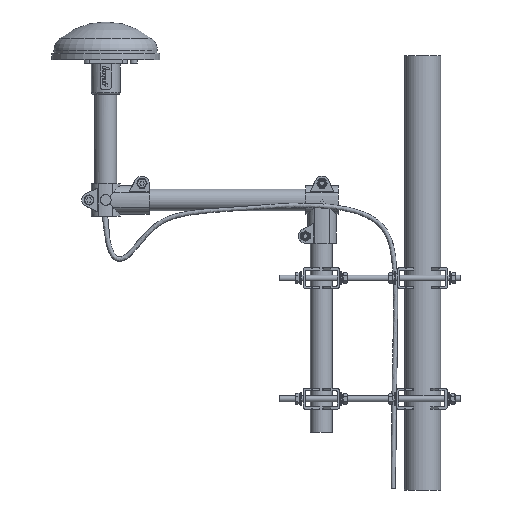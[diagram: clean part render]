
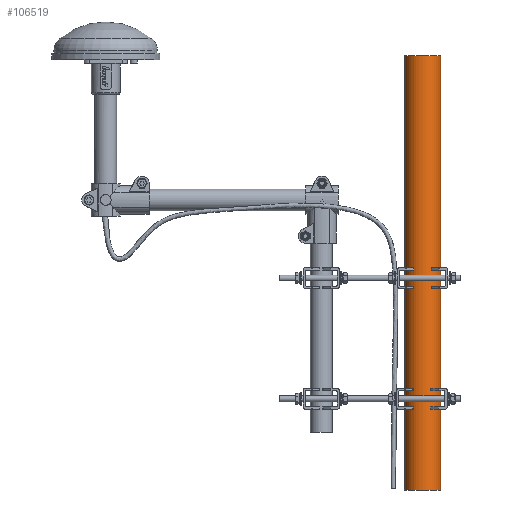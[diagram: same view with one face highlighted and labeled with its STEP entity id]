
A CAD part, front view. The second image highlights one B-rep face of the part: STEP entity #106519.
In plain terms, the highlighted cylindrical face has radius 25 mm (diameter 50 mm), a full revolution.
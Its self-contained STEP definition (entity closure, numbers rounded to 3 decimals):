
#106465 = PLANE('',#106466);
#106466 = AXIS2_PLACEMENT_3D('',#106467,#106468,#106469);
#106467 = CARTESIAN_POINT('',(0.,0.,600.));
#106468 = DIRECTION('',(-0.,0.,-1.));
#106469 = DIRECTION('',(1.,0.,-0.));
#106491 = EDGE_CURVE('',#106492,#106492,#106494,.T.);
#106492 = VERTEX_POINT('',#106493);
#106493 = CARTESIAN_POINT('',(25.,0.,600.));
#106494 = SURFACE_CURVE('',#106495,(#106500,#106507),.PCURVE_S1.);
#106495 = CIRCLE('',#106496,25.);
#106496 = AXIS2_PLACEMENT_3D('',#106497,#106498,#106499);
#106497 = CARTESIAN_POINT('',(0.,0.,600.));
#106498 = DIRECTION('',(0.,0.,-1.));
#106499 = DIRECTION('',(1.,0.,0.));
#106500 = PCURVE('',#106465,#106501);
#106501 = DEFINITIONAL_REPRESENTATION('',(#106502),#106506);
#106502 = CIRCLE('',#106503,25.);
#106503 = AXIS2_PLACEMENT_2D('',#106504,#106505);
#106504 = CARTESIAN_POINT('',(0.,0.));
#106505 = DIRECTION('',(1.,0.));
#106506 = ( GEOMETRIC_REPRESENTATION_CONTEXT(2) 
PARAMETRIC_REPRESENTATION_CONTEXT() REPRESENTATION_CONTEXT('2D SPACE',''
  ) );
#106507 = PCURVE('',#106508,#106513);
#106508 = CYLINDRICAL_SURFACE('',#106509,25.);
#106509 = AXIS2_PLACEMENT_3D('',#106510,#106511,#106512);
#106510 = CARTESIAN_POINT('',(0.,0.,600.));
#106511 = DIRECTION('',(-0.,0.,-1.));
#106512 = DIRECTION('',(1.,0.,0.));
#106513 = DEFINITIONAL_REPRESENTATION('',(#106514),#106518);
#106514 = LINE('',#106515,#106516);
#106515 = CARTESIAN_POINT('',(0.,0.));
#106516 = VECTOR('',#106517,1.);
#106517 = DIRECTION('',(1.,0.));
#106518 = ( GEOMETRIC_REPRESENTATION_CONTEXT(2) 
PARAMETRIC_REPRESENTATION_CONTEXT() REPRESENTATION_CONTEXT('2D SPACE',''
  ) );
#106519 = ADVANCED_FACE('',(#106520),#106508,.T.);
#106520 = FACE_BOUND('',#106521,.T.);
#106521 = EDGE_LOOP('',(#106522,#106523,#106546,#106573));
#106522 = ORIENTED_EDGE('',*,*,#106491,.T.);
#106523 = ORIENTED_EDGE('',*,*,#106524,.T.);
#106524 = EDGE_CURVE('',#106492,#106525,#106527,.T.);
#106525 = VERTEX_POINT('',#106526);
#106526 = CARTESIAN_POINT('',(25.,0.,0.));
#106527 = SEAM_CURVE('',#106528,(#106532,#106539),.PCURVE_S1.);
#106528 = LINE('',#106529,#106530);
#106529 = CARTESIAN_POINT('',(25.,0.,600.));
#106530 = VECTOR('',#106531,1.);
#106531 = DIRECTION('',(0.,0.,-1.));
#106532 = PCURVE('',#106508,#106533);
#106533 = DEFINITIONAL_REPRESENTATION('',(#106534),#106538);
#106534 = LINE('',#106535,#106536);
#106535 = CARTESIAN_POINT('',(6.283,0.));
#106536 = VECTOR('',#106537,1.);
#106537 = DIRECTION('',(0.,1.));
#106538 = ( GEOMETRIC_REPRESENTATION_CONTEXT(2) 
PARAMETRIC_REPRESENTATION_CONTEXT() REPRESENTATION_CONTEXT('2D SPACE',''
  ) );
#106539 = PCURVE('',#106508,#106540);
#106540 = DEFINITIONAL_REPRESENTATION('',(#106541),#106545);
#106541 = LINE('',#106542,#106543);
#106542 = CARTESIAN_POINT('',(0.,0.));
#106543 = VECTOR('',#106544,1.);
#106544 = DIRECTION('',(0.,1.));
#106545 = ( GEOMETRIC_REPRESENTATION_CONTEXT(2) 
PARAMETRIC_REPRESENTATION_CONTEXT() REPRESENTATION_CONTEXT('2D SPACE',''
  ) );
#106546 = ORIENTED_EDGE('',*,*,#106547,.F.);
#106547 = EDGE_CURVE('',#106525,#106525,#106548,.T.);
#106548 = SURFACE_CURVE('',#106549,(#106554,#106561),.PCURVE_S1.);
#106549 = CIRCLE('',#106550,25.);
#106550 = AXIS2_PLACEMENT_3D('',#106551,#106552,#106553);
#106551 = CARTESIAN_POINT('',(0.,0.,0.));
#106552 = DIRECTION('',(0.,0.,-1.));
#106553 = DIRECTION('',(1.,0.,0.));
#106554 = PCURVE('',#106508,#106555);
#106555 = DEFINITIONAL_REPRESENTATION('',(#106556),#106560);
#106556 = LINE('',#106557,#106558);
#106557 = CARTESIAN_POINT('',(0.,600.));
#106558 = VECTOR('',#106559,1.);
#106559 = DIRECTION('',(1.,0.));
#106560 = ( GEOMETRIC_REPRESENTATION_CONTEXT(2) 
PARAMETRIC_REPRESENTATION_CONTEXT() REPRESENTATION_CONTEXT('2D SPACE',''
  ) );
#106561 = PCURVE('',#106562,#106567);
#106562 = PLANE('',#106563);
#106563 = AXIS2_PLACEMENT_3D('',#106564,#106565,#106566);
#106564 = CARTESIAN_POINT('',(0.,0.,0.));
#106565 = DIRECTION('',(-0.,0.,-1.));
#106566 = DIRECTION('',(1.,0.,0.));
#106567 = DEFINITIONAL_REPRESENTATION('',(#106568),#106572);
#106568 = CIRCLE('',#106569,25.);
#106569 = AXIS2_PLACEMENT_2D('',#106570,#106571);
#106570 = CARTESIAN_POINT('',(0.,0.));
#106571 = DIRECTION('',(1.,0.));
#106572 = ( GEOMETRIC_REPRESENTATION_CONTEXT(2) 
PARAMETRIC_REPRESENTATION_CONTEXT() REPRESENTATION_CONTEXT('2D SPACE',''
  ) );
#106573 = ORIENTED_EDGE('',*,*,#106524,.F.);
